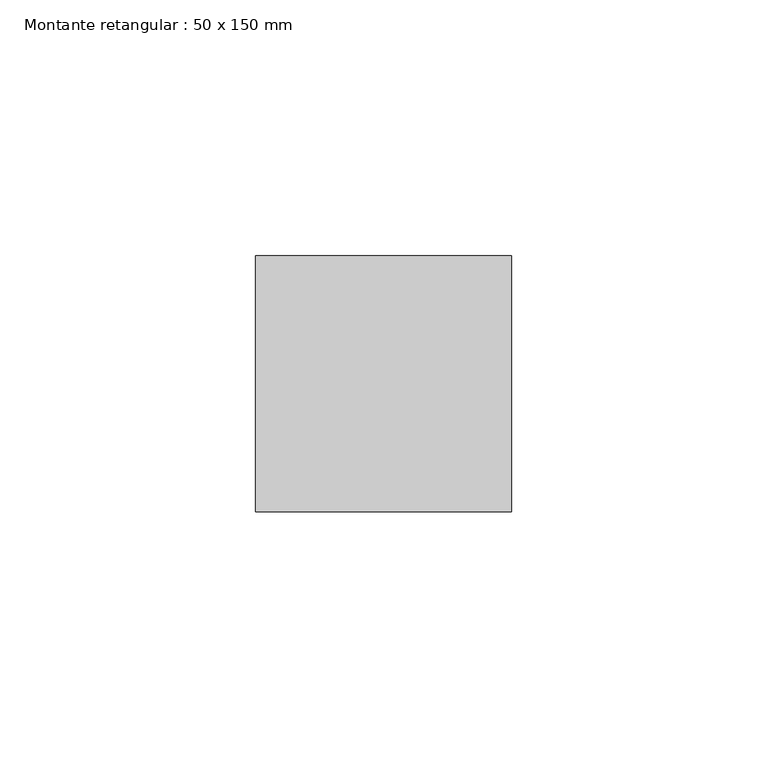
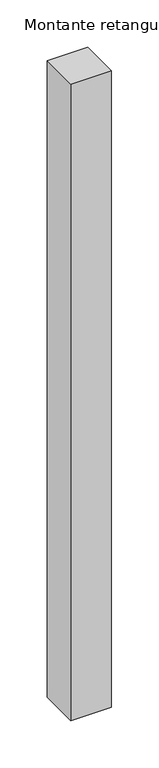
"""IFC4 building model written with IfcOpenShell, lengths in millimetres: member geometry, Montante retangular : 50 x 150 mm."""

from ifc_helpers import new_model, si_unit, frame, origin, place, context, project, spatial, polyline, outline, extrude, source, transform, mapped, element, save


def montante_retangular_50_x_150_mm_ff7a741d(model_context):
    return source(origin(), model_context, "Body", "SweptSolid", [
        extrude(outline(polyline([(25.0, 25.0), (25.0, -25.0), (-25.0, -25.0), (-25.0, 25.0), (25.0, 25.0)])), frame((0.0, 0.0, -825.0), z_axis=(0.0, 0.0, 1.0), x_axis=(1.0, 0.0, 0.0)), (0.0, 0.0, 1.0), 825.0),
    ])


if __name__ == "__main__":
    model = new_model("IFC4")
    model_context = context("Model", 3, world=origin())
    ifc_project = project(units=[si_unit("LENGTHUNIT", "METRE", prefix="MILLI")], contexts=[model_context])
    site = spatial("IfcSite", under=ifc_project)
    building = spatial("IfcBuilding", under=site)
    placement = place(None, origin())
    montante_retangular_50_x_150_mm_shape = montante_retangular_50_x_150_mm_ff7a741d(model_context)
    element("IfcMember", 1, ObjectType="Montante retangular : 50 x 150 mm", at=placement, inside=building, context=model_context, shape_type="MappedRepresentation", body=[
        mapped(montante_retangular_50_x_150_mm_shape, transform((0.0, 0.0, 0.0), x_axis=(1.0, 0.0, 0.0), y_axis=(0.0, 1.0, 0.0), z_axis=(0.0, 0.0, 1.0))),
    ])
    save(model, "model.ifc")
